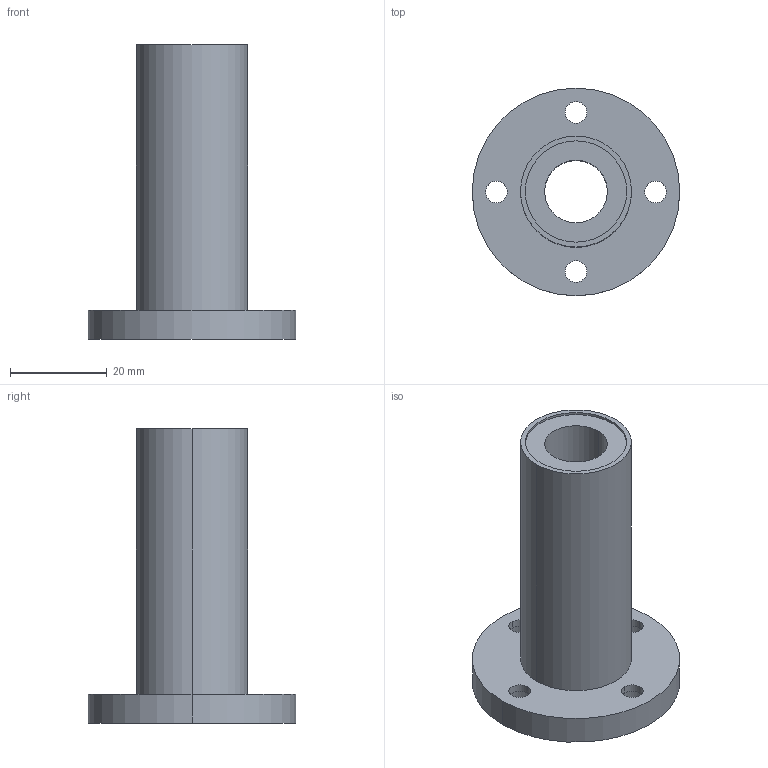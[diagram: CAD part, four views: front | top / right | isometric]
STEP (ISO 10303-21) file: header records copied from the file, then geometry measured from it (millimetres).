
FILE_DESCRIPTION((''),'2;1');
FILE_NAME('C:\Documents and Settings\ｿﾀﾀ蠑ｷ1\ｹﾙﾅﾁ ﾈｭｸ饅\ｺﾎﾇｰﾆﾄﾀﾏ\ﾁｦﾇｰ\LMF__LUU\LMF13LUU.stp','2005-06-15T09:42:04',('ｿﾀﾀ蠑ｷ1'),(''),'Autodesk Inventor 9','Autodesk Inventor 9','');
FILE_SCHEMA(('AUTOMOTIVE_DESIGN { 1 0 10303 214 1 1 1 1 }'));
Length unit declared in the file: millimetre
Products named in the file (1): LMF__
Bounding box: 43 x 43 x 61 mm (x, y, z)
Volume: 22225.5 mm3; surface area: 10350 mm2
Topology: 1 solids, 1 shells, 38 faces, 84 edges, 56 vertices
Faces by surface type: cylinder 28, plane 10
Entity records: 1127 total; most frequent: DIRECTION 218, CARTESIAN_POINT 179, ORIENTED_EDGE 168, AXIS2_PLACEMENT_3D 95, EDGE_CURVE 84, VERTEX_POINT 56, CIRCLE 56, EDGE_LOOP 56
